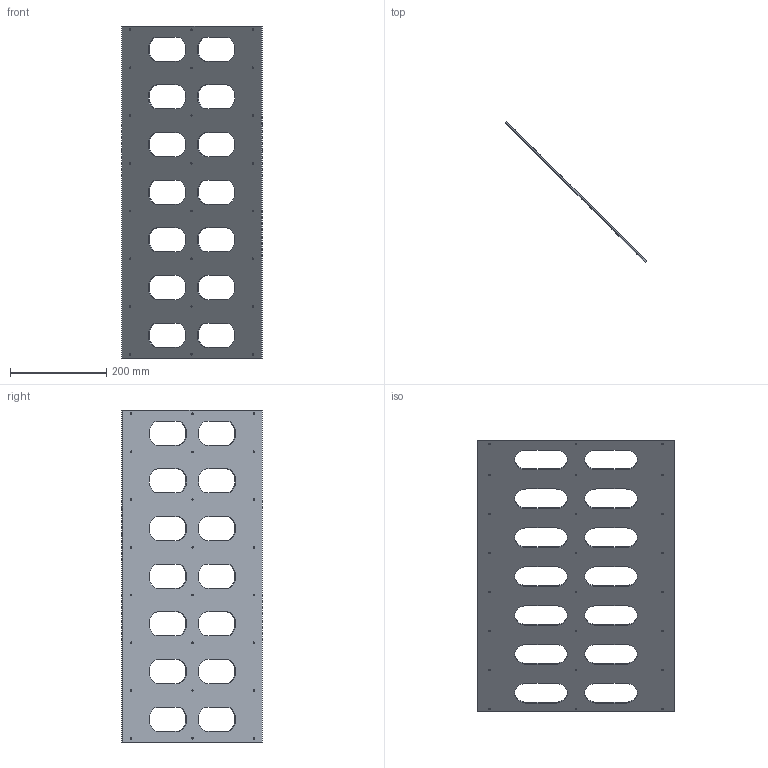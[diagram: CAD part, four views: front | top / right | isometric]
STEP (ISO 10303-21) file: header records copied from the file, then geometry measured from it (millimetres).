
FILE_DESCRIPTION(('STEP AP214'), '1');
FILE_NAME('Out_Panel', '', ('UNSPECIFIED'), ('UNSPECIFIED'), 'C3D Converter', 'C3D Toolkit', '');
FILE_SCHEMA(('AUTOMOTIVE_DESIGN { 1 0 10303 214 3 1 1}'));
Length unit declared in the file: millimetre
Bounding box: 291.95 x 291.95 x 689.38 mm (x, y, z)
Volume: 638538.6 mm3; surface area: 444709.5 mm2
Topology: 1 solids, 1 shells, 86 faces, 252 edges, 168 vertices
Faces by surface type: cylinder 52, plane 34
Full cylindrical faces by diameter (mm): 3.4 x8, 3.5 x16
Entity records: 2974 total; most frequent: DIRECTION 506, CARTESIAN_POINT 483, ORIENTED_EDGE 456, EDGE_CURVE 228, AXIS2_PLACEMENT_3D 191, EDGE_LOOP 186, VERTEX_POINT 168, FACE_BOUND 138
